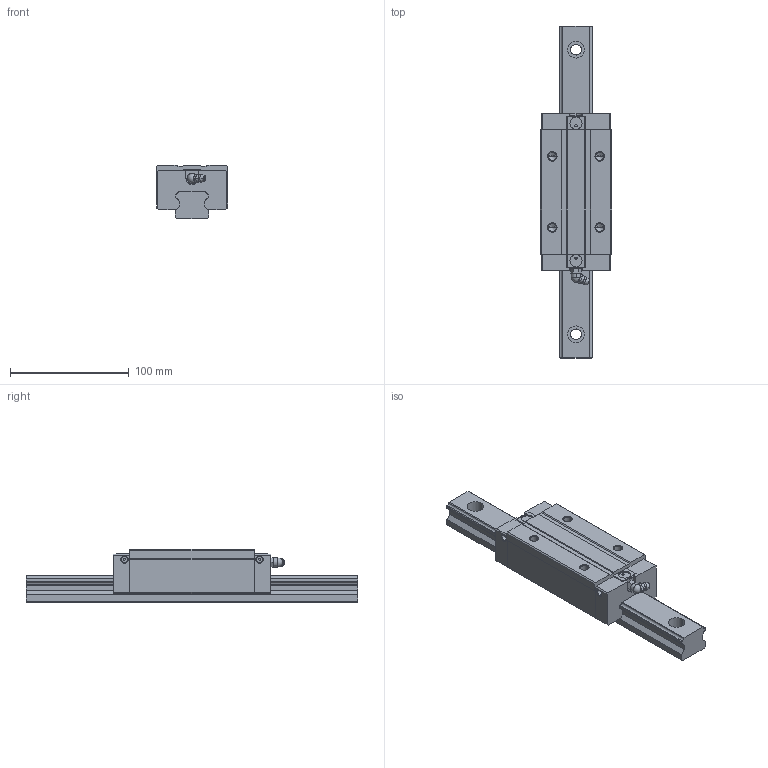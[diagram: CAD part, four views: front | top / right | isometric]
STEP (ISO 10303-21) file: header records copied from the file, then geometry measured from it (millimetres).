
FILE_DESCRIPTION((''),'1');
FILE_NAME(' ',' ',(''),(''),'ACIS Interop R16','Kubotek KeyCreator V6.5.2 (0407)',' ');
FILE_SCHEMA(('CONFIG_CONTROL_DESIGN'));
Length unit declared in the file: millimetre
Products named in the file (3): 1; 2; 3
Bounding box: 60 x 280 x 45 mm (x, y, z)
Volume: 388740.5 mm3; surface area: 69229.4 mm2
Topology: 3 solids, 3 shells, 232 faces, 623 edges, 409 vertices
Faces by surface type: plane 117, cylinder 74, cone 26, torus 10, sphere 3, bspline 2
Entity records: 7558 total; most frequent: CARTESIAN_POINT 1539, DIRECTION 1240, ORIENTED_EDGE 1226, EDGE_CURVE 613, AXIS2_PLACEMENT_3D 442, VERTEX_POINT 409, LINE 356, VECTOR 356
